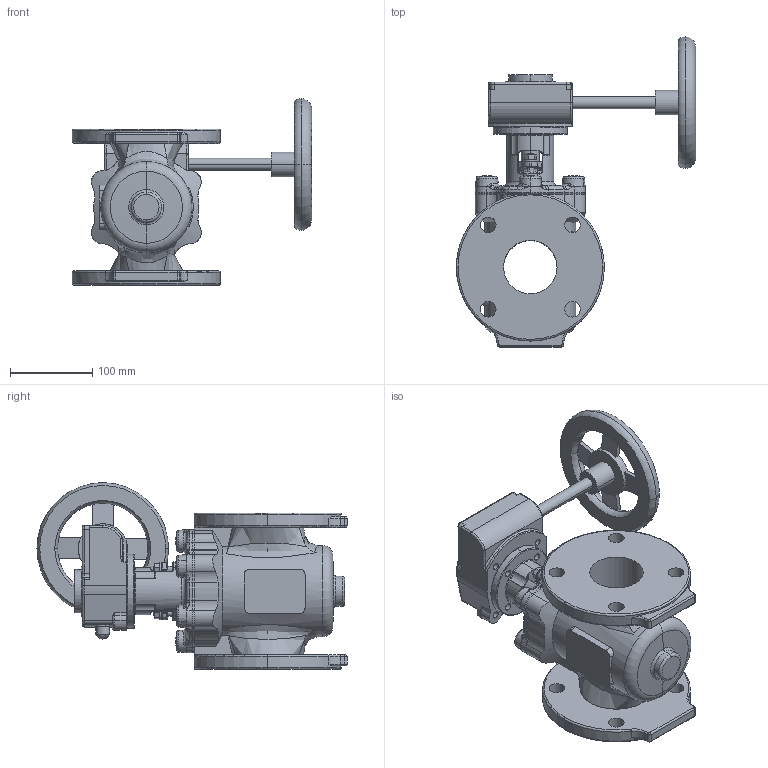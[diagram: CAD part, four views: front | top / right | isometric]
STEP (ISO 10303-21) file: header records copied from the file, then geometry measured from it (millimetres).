
FILE_DESCRIPTION (( 'STEP AP203' ), '1' );
FILE_NAME ('O_764_01_DN065_1XXXXXX020_REV01.step', '2021-02-01T09:23:58', ( '' ), ( '' ), 'SwSTEP 2.0', 'SolidWorks 2019', '' );
FILE_SCHEMA (( 'CONFIG_CONTROL_DESIGN' ));
Products named in the file (1): O_764_01_DN065_1XXXXXX020_REV01
Bounding box: 291.09 x 377.13 x 227 mm (x, y, z)
Volume: 3682253.4 mm3; surface area: 369675.7 mm2
Topology: 1 solids, 1 shells, 906 faces, 2274 edges, 1370 vertices
Faces by surface type: cylinder 270, torus 198, bspline 183, plane 166, cone 73, sphere 16
Entity records: 39311 total; most frequent: CARTESIAN_POINT 18722, ORIENTED_EDGE 4476, DIRECTION 4245, EDGE_CURVE 2238, AXIS2_PLACEMENT_3D 1845, VERTEX_POINT 1370, CIRCLE 1121, EDGE_LOOP 976
